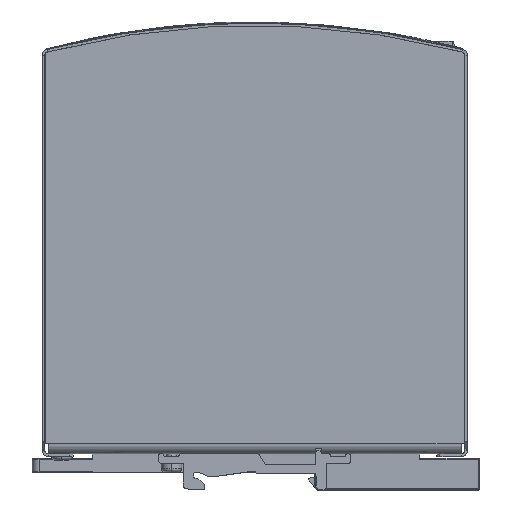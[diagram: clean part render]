
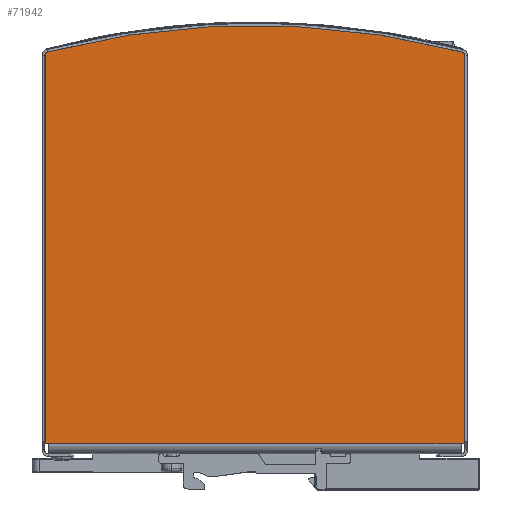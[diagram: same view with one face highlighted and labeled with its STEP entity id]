
A CAD part, left-side view. The second image highlights one B-rep face of the part: STEP entity #71942.
In plain terms, the highlighted planar face has unit normal (-1, 0, 0).
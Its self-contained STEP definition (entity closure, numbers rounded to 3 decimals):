
#3914 = DIRECTION ( 'NONE',  ( 0., 1., 0. ) ) ;
#4603 = CARTESIAN_POINT ( 'NONE',  ( -48., 3., 61.15 ) ) ;
#6546 = VERTEX_POINT ( 'NONE', #68977 ) ;
#7481 = ORIENTED_EDGE ( 'NONE', *, *, #83897, .F. ) ;
#8953 = EDGE_CURVE ( 'NONE', #41723, #22105, #65607, .T. ) ;
#9056 = VECTOR ( 'NONE', #86876, 1000. ) ;
#11984 = EDGE_CURVE ( 'NONE', #120945, #67582, #96898, .T. ) ;
#13920 = CARTESIAN_POINT ( 'NONE',  ( -48., 3., -61.15 ) ) ;
#14628 = CARTESIAN_POINT ( 'NONE',  ( -48., 125., 61.15 ) ) ;
#17684 = DIRECTION ( 'NONE',  ( -1., 0., 0. ) ) ;
#18419 = VECTOR ( 'NONE', #139270, 1000. ) ;
#20414 = CARTESIAN_POINT ( 'NONE',  ( -48., 3., 61.15 ) ) ;
#22105 = VERTEX_POINT ( 'NONE', #97158 ) ;
#25153 = CIRCLE ( 'NONE', #70857, 1. ) ;
#25341 = PLANE ( 'NONE',  #30796 ) ;
#27679 = CARTESIAN_POINT ( 'NONE',  ( -48., 116.307, 60.15 ) ) ;
#28516 = EDGE_CURVE ( 'NONE', #110419, #41723, #103392, .T. ) ;
#30796 = AXIS2_PLACEMENT_3D ( 'NONE', #14628, #101822, #3914 ) ;
#32463 = ORIENTED_EDGE ( 'NONE', *, *, #63219, .T. ) ;
#36592 = DIRECTION ( 'NONE',  ( -1., 0., 0. ) ) ;
#39824 = CARTESIAN_POINT ( 'NONE',  ( -48., -115., 0. ) ) ;
#41723 = VERTEX_POINT ( 'NONE', #53017 ) ;
#53017 = CARTESIAN_POINT ( 'NONE',  ( -48., 117.275, 60.402 ) ) ;
#55775 = ORIENTED_EDGE ( 'NONE', *, *, #75140, .T. ) ;
#63219 = EDGE_CURVE ( 'NONE', #6546, #74183, #110426, .T. ) ;
#63499 = CARTESIAN_POINT ( 'NONE',  ( -48., 3., -61.15 ) ) ;
#65607 = CIRCLE ( 'NONE', #70168, 240. ) ;
#66021 = VECTOR ( 'NONE', #75449, 1000. ) ;
#67582 = VERTEX_POINT ( 'NONE', #127443 ) ;
#68585 = VERTEX_POINT ( 'NONE', #137676 ) ;
#68977 = CARTESIAN_POINT ( 'NONE',  ( -48., 116.307, -61.15 ) ) ;
#69241 = ORIENTED_EDGE ( 'NONE', *, *, #8953, .T. ) ;
#69469 = CARTESIAN_POINT ( 'NONE',  ( -48., 116.307, -60.15 ) ) ;
#70168 = AXIS2_PLACEMENT_3D ( 'NONE', #39824, #137718, #127006 ) ;
#70227 = LINE ( 'NONE', #135962, #88190 ) ;
#70857 = AXIS2_PLACEMENT_3D ( 'NONE', #69469, #36592, #81596 ) ;
#71284 = DIRECTION ( 'NONE',  ( 0., 1., 0. ) ) ;
#71942 = ADVANCED_FACE ( 'NONE', ( #133977 ), #25341, .F. ) ;
#74183 = VERTEX_POINT ( 'NONE', #13920 ) ;
#74522 = EDGE_CURVE ( 'NONE', #22105, #6546, #25153, .T. ) ;
#75140 = EDGE_CURVE ( 'NONE', #74183, #68585, #129960, .T. ) ;
#75449 = DIRECTION ( 'NONE',  ( 0., -1., 0. ) ) ;
#78840 = DIRECTION ( 'NONE',  ( 0., 0., -1. ) ) ;
#81596 = DIRECTION ( 'NONE',  ( 0., 1., 0. ) ) ;
#83897 = EDGE_CURVE ( 'NONE', #67582, #68585, #70227, .T. ) ;
#85457 = CARTESIAN_POINT ( 'NONE',  ( -48., 125., -61.15 ) ) ;
#86786 = LINE ( 'NONE', #118232, #118744 ) ;
#86876 = DIRECTION ( 'NONE',  ( 0., 0., -1. ) ) ;
#88190 = VECTOR ( 'NONE', #78840, 1000. ) ;
#91957 = EDGE_CURVE ( 'NONE', #110419, #120945, #86786, .T. ) ;
#92149 = ORIENTED_EDGE ( 'NONE', *, *, #28516, .T. ) ;
#94454 = ORIENTED_EDGE ( 'NONE', *, *, #11984, .F. ) ;
#96898 = LINE ( 'NONE', #20414, #9056 ) ;
#97158 = CARTESIAN_POINT ( 'NONE',  ( -48., 117.275, -60.402 ) ) ;
#97731 = EDGE_LOOP ( 'NONE', ( #116184, #92149, #69241, #116884, #32463, #55775, #7481, #94454 ) ) ;
#101822 = DIRECTION ( 'NONE',  ( 1., 0., 0. ) ) ;
#103392 = CIRCLE ( 'NONE', #137561, 1. ) ;
#105379 = DIRECTION ( 'NONE',  ( 0., -1., 0. ) ) ;
#110419 = VERTEX_POINT ( 'NONE', #120174 ) ;
#110426 = LINE ( 'NONE', #85457, #66021 ) ;
#116184 = ORIENTED_EDGE ( 'NONE', *, *, #91957, .F. ) ;
#116884 = ORIENTED_EDGE ( 'NONE', *, *, #74522, .T. ) ;
#118232 = CARTESIAN_POINT ( 'NONE',  ( -48., 125., 61.15 ) ) ;
#118744 = VECTOR ( 'NONE', #105379, 1000. ) ;
#120174 = CARTESIAN_POINT ( 'NONE',  ( -48., 116.307, 61.15 ) ) ;
#120945 = VERTEX_POINT ( 'NONE', #4603 ) ;
#127006 = DIRECTION ( 'NONE',  ( 0., 1., 0. ) ) ;
#127443 = CARTESIAN_POINT ( 'NONE',  ( -48., 3., 60.15 ) ) ;
#129960 = LINE ( 'NONE', #63499, #18419 ) ;
#133977 = FACE_OUTER_BOUND ( 'NONE', #97731, .T. ) ;
#135962 = CARTESIAN_POINT ( 'NONE',  ( -48., 3., 61.15 ) ) ;
#137561 = AXIS2_PLACEMENT_3D ( 'NONE', #27679, #17684, #71284 ) ;
#137676 = CARTESIAN_POINT ( 'NONE',  ( -48., 3., -60.15 ) ) ;
#137718 = DIRECTION ( 'NONE',  ( -1., 0., 0. ) ) ;
#139270 = DIRECTION ( 'NONE',  ( 0., 0., 1. ) ) ;
